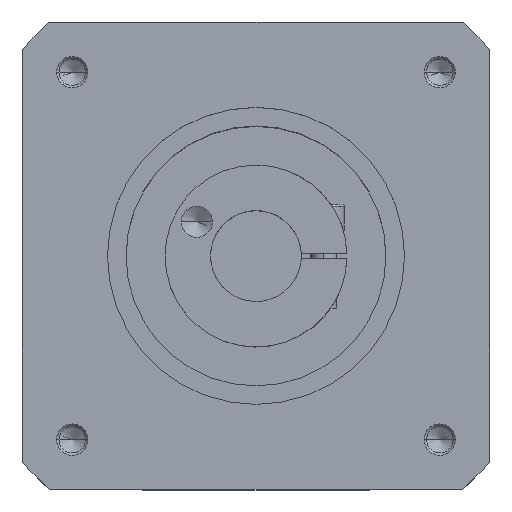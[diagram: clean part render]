
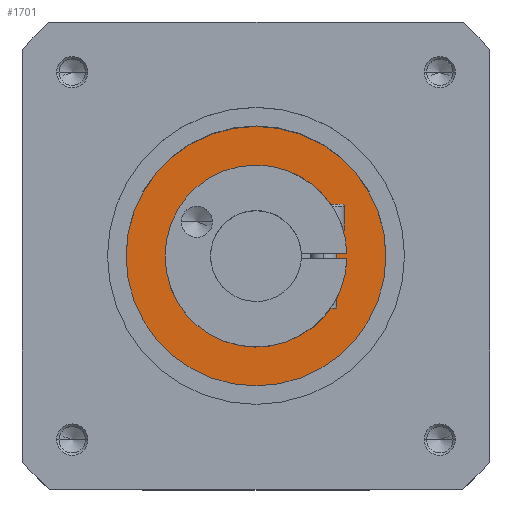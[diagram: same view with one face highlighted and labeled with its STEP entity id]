
A CAD part, top view. The second image highlights one B-rep face of the part: STEP entity #1701.
In plain terms, the highlighted planar face has unit normal (0, 0, 1).
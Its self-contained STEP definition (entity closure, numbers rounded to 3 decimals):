
#36 = VERTEX_POINT ( 'NONE', #1587 ) ;
#55 = EDGE_CURVE ( 'NONE', #1659, #36, #1728, .T. ) ;
#204 = DIRECTION ( 'NONE',  ( 0., 0., 1. ) ) ;
#222 = DIRECTION ( 'NONE',  ( 1., 0., 0. ) ) ;
#576 = EDGE_LOOP ( 'NONE', ( #3006, #4408 ) ) ;
#674 = CARTESIAN_POINT ( 'NONE',  ( 0., 0., 76. ) ) ;
#717 = CIRCLE ( 'NONE', #785, 50. ) ;
#785 = AXIS2_PLACEMENT_3D ( 'NONE', #4804, #3622, #3648 ) ;
#885 = CARTESIAN_POINT ( 'NONE',  ( 0., 0., 76. ) ) ;
#1029 = AXIS2_PLACEMENT_3D ( 'NONE', #674, #2180, #222 ) ;
#1149 = CIRCLE ( 'NONE', #3579, 27.5 ) ;
#1332 = CARTESIAN_POINT ( 'NONE',  ( 0., 0., 76. ) ) ;
#1424 = EDGE_CURVE ( 'NONE', #4836, #1725, #717, .T. ) ;
#1587 = CARTESIAN_POINT ( 'NONE',  ( 27.5, 0., 76. ) ) ;
#1659 = VERTEX_POINT ( 'NONE', #2576 ) ;
#1701 = ADVANCED_FACE ( 'NONE', ( #2605, #2051 ), #2976, .T. ) ;
#1724 = DIRECTION ( 'NONE',  ( 1., 0., 0. ) ) ;
#1725 = VERTEX_POINT ( 'NONE', #3813 ) ;
#1728 = CIRCLE ( 'NONE', #1802, 27.5 ) ;
#1802 = AXIS2_PLACEMENT_3D ( 'NONE', #885, #2828, #4372 ) ;
#1823 = AXIS2_PLACEMENT_3D ( 'NONE', #4514, #4915, #3824 ) ;
#2017 = CIRCLE ( 'NONE', #1029, 50. ) ;
#2051 = FACE_OUTER_BOUND ( 'NONE', #2313, .T. ) ;
#2180 = DIRECTION ( 'NONE',  ( 0., 0., -1. ) ) ;
#2313 = EDGE_LOOP ( 'NONE', ( #2676, #2730 ) ) ;
#2576 = CARTESIAN_POINT ( 'NONE',  ( -27.5, 0., 76. ) ) ;
#2605 = FACE_BOUND ( 'NONE', #576, .T. ) ;
#2676 = ORIENTED_EDGE ( 'NONE', *, *, #4642, .F. ) ;
#2730 = ORIENTED_EDGE ( 'NONE', *, *, #1424, .F. ) ;
#2828 = DIRECTION ( 'NONE',  ( 0., 0., 1. ) ) ;
#2976 = PLANE ( 'NONE',  #1823 ) ;
#3006 = ORIENTED_EDGE ( 'NONE', *, *, #55, .F. ) ;
#3579 = AXIS2_PLACEMENT_3D ( 'NONE', #1332, #204, #1724 ) ;
#3622 = DIRECTION ( 'NONE',  ( 0., 0., -1. ) ) ;
#3648 = DIRECTION ( 'NONE',  ( 1., 0., 0. ) ) ;
#3813 = CARTESIAN_POINT ( 'NONE',  ( -50., 0., 76. ) ) ;
#3824 = DIRECTION ( 'NONE',  ( 1., 0., 0. ) ) ;
#3874 = EDGE_CURVE ( 'NONE', #36, #1659, #1149, .T. ) ;
#4372 = DIRECTION ( 'NONE',  ( 1., 0., 0. ) ) ;
#4408 = ORIENTED_EDGE ( 'NONE', *, *, #3874, .F. ) ;
#4514 = CARTESIAN_POINT ( 'NONE',  ( 0., 0., 76. ) ) ;
#4642 = EDGE_CURVE ( 'NONE', #1725, #4836, #2017, .T. ) ;
#4804 = CARTESIAN_POINT ( 'NONE',  ( 0., 0., 76. ) ) ;
#4836 = VERTEX_POINT ( 'NONE', #5023 ) ;
#4915 = DIRECTION ( 'NONE',  ( 0., 0., 1. ) ) ;
#5023 = CARTESIAN_POINT ( 'NONE',  ( 50., 0., 76. ) ) ;
